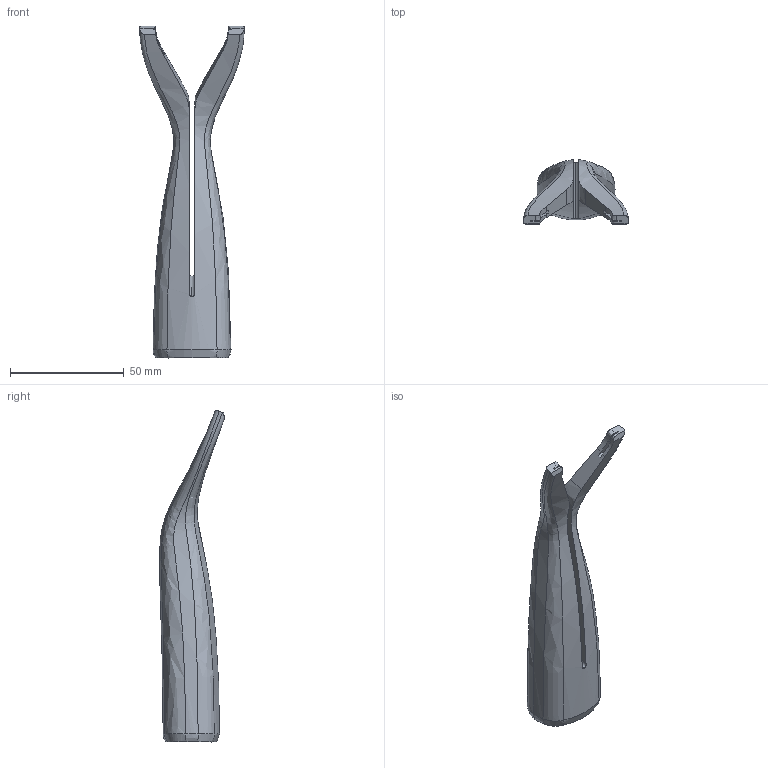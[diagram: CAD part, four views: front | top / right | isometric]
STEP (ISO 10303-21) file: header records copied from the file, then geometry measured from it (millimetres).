
FILE_DESCRIPTION (( 'STEP AP214' ), '1' );
FILE_NAME ('Large Razor Scraper v1-2.STEP', '2017-08-15T06:48:11', ( '' ), ( '' ), 'SwSTEP 2.0', 'SolidWorks 2015', '' );
FILE_SCHEMA (( 'AUTOMOTIVE_DESIGN' ));
Length unit declared in the file: millimetre
Products named in the file (2): Large Razor Scraper v1-2
Bounding box: 46.08 x 28.56 x 145.72 mm (x, y, z)
Volume: 56229.9 mm3; surface area: 14871.8 mm2
Topology: 1 solids, 1 shells, 67 faces, 193 edges, 128 vertices
Faces by surface type: bspline 32, plane 31, cylinder 4
Entity records: 6308 total; most frequent: CARTESIAN_POINT 4850, ORIENTED_EDGE 386, EDGE_CURVE 193, DIRECTION 155, VERTEX_POINT 128, B_SPLINE_CURVE_WITH_KNOTS 102, LINE 69, VECTOR 69
